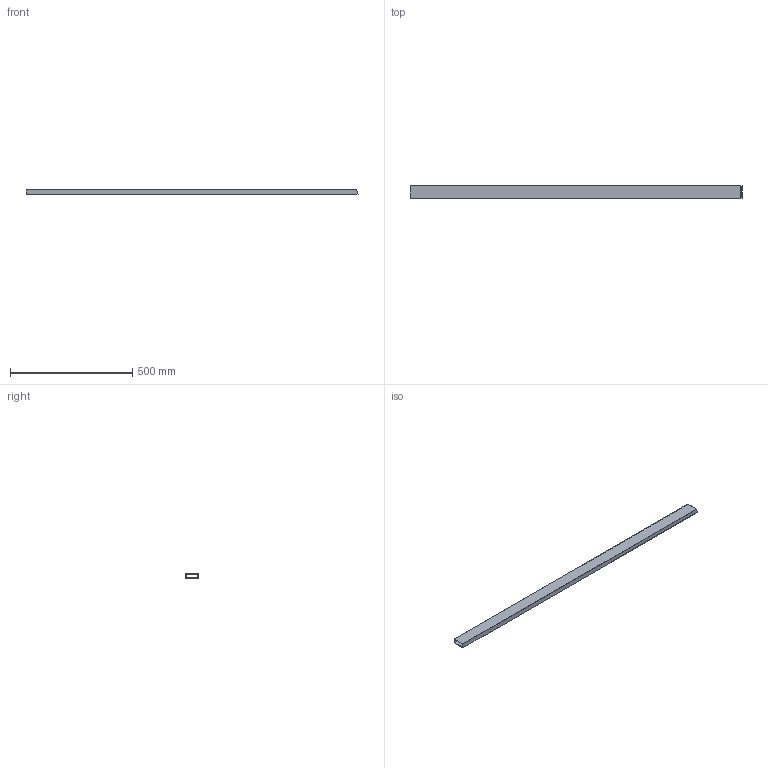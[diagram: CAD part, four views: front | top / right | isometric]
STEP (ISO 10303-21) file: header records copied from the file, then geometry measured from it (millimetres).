
FILE_DESCRIPTION(/* description */ (''),/* implementation_level */ '2;1');
FILE_NAME(/* name */ 'Pos121-Koker 50x20x2 EN 10219-2-S235JRH-1st',/* time_stamp */ '2024-08-06T13:49:48+02:00',/* author */ (''),/* organization */ (''),/* preprocessor_version */ 'ST-DEVELOPER v16.5',/* originating_system */ 'HiCAD 2024 2901.2 Build 361',/* authorisation */ '');
FILE_SCHEMA (('AUTOMOTIVE_DESIGN { 1 0 10303 214 1 1 1 1 }'));
Length unit declared in the file: millimetre
Products named in the file (1): Pos121-Koker 50x20x2 EN 10219-2-S235JRH-1st
Bounding box: 1357.65 x 50 x 20 mm (x, y, z)
Volume: 357485 mm3; surface area: 358029.1 mm2
Topology: 1 solids, 1 shells, 10 faces, 24 edges, 16 vertices
Faces by surface type: plane 10
Entity records: 550 total; most frequent: CARTESIAN_POINT 50, PRESENTATION_STYLE_ASSIGNMENT 49, COLOUR_RGB 49, DRAUGHTING_PRE_DEFINED_CURVE_FONT 48, CURVE_STYLE 48, OVER_RIDING_STYLED_ITEM 48, ORIENTED_EDGE 48, DIRECTION 44
